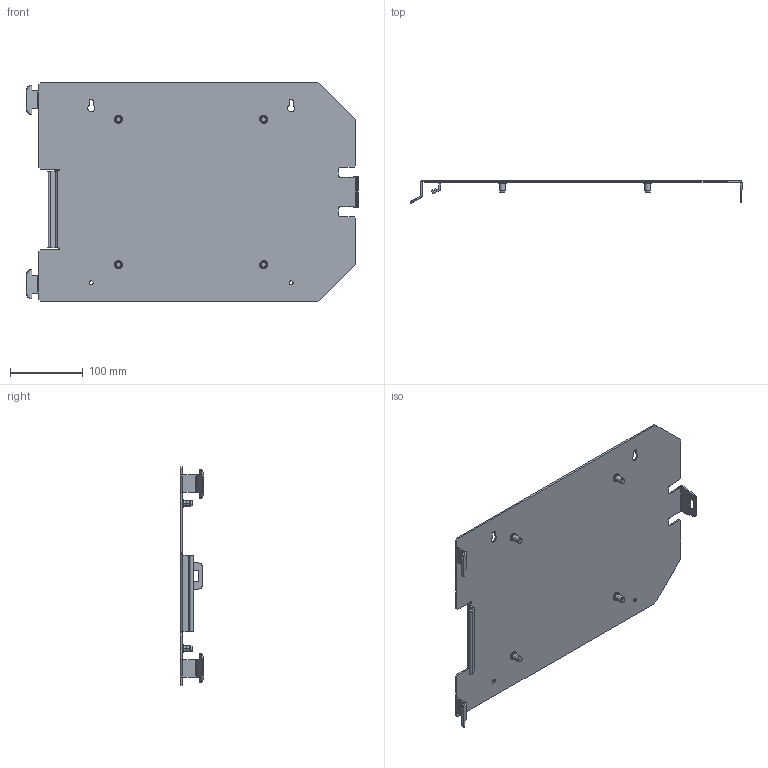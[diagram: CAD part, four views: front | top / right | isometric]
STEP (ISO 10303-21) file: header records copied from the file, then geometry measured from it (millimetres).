
FILE_DESCRIPTION (( 'STEP AP203' ), '1' );
FILE_NAME ('xArray Mounting Plate.STEP', '2014-12-31T18:36:37', ( '' ), ( '' ), 'SwSTEP 2.0', 'SolidWorks 2014', '' );
FILE_SCHEMA (( 'CONFIG_CONTROL_DESIGN' ));
Length unit declared in the file: millimetre
Products named in the file (3): 272550; B-M6-1ZI; xArray Mounting Plate
Assembly tree (5 placements, depth 2):
  xArray Mounting Plate
    272550
    B-M6-1ZI  x4
Bounding box: 456.8 x 31.69 x 300 mm (x, y, z)
Volume: 299803 mm3; surface area: 269222.5 mm2
Topology: 5 solids, 5 shells, 356 faces, 798 edges, 488 vertices
Faces by surface type: plane 152, cylinder 146, cone 48, bspline 10
Entity records: 6577 total; most frequent: CARTESIAN_POINT 1261, DIRECTION 1066, ORIENTED_EDGE 992, EDGE_CURVE 496, AXIS2_PLACEMENT_3D 366, VECTOR 334, LINE 334, VERTEX_POINT 305
